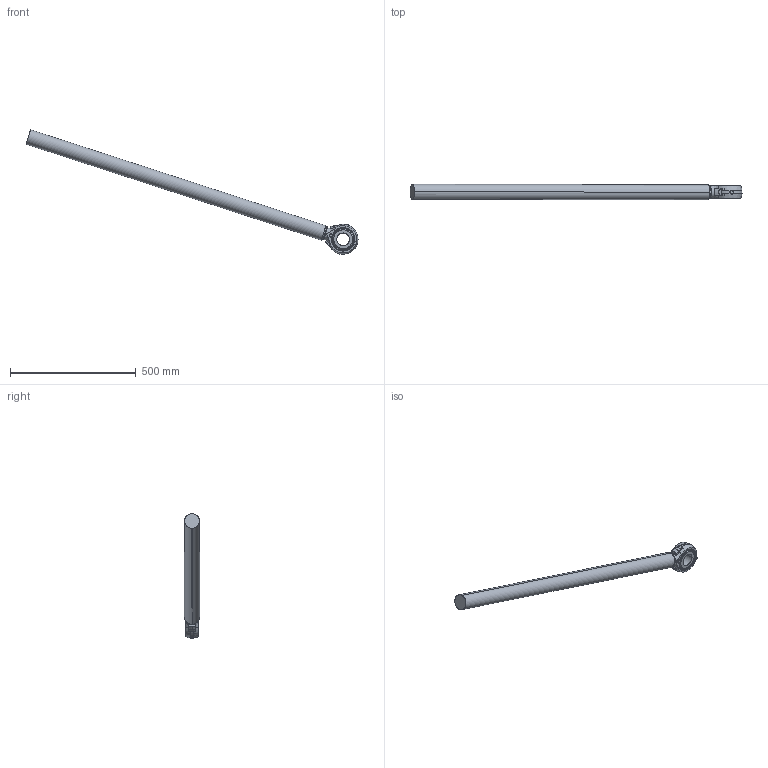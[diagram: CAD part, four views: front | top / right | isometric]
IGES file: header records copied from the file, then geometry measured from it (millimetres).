
Start section: SolidWorks IGES file using analytic representation for surfaces
Global section: file name: C:\Data\SAP_DOC\IRB6740_lightweight\6750S\IRB 6750S ASM\IRB6750S_215kg-390_OC_01_SW_J\IRB6750S_215kg-390_OC_01_IGES_J\IRB6750S_All_OC_00_ROD_CAD.igs; native system: SolidWorks 2024; preprocessor: SolidWorks 2024; author: SEJAOLS6; date: 260513.072216; units: millimetre
Bounding box: 1318.72 x 60 x 494.06 mm (x, y, z)
Surface area: 282854.6 mm2 (no closed solid volume)
Topology: 0 solids, 0 shells, 81 faces, 2295 edges, 2295 vertices
Faces by surface type: revolution 45, bspline 36
